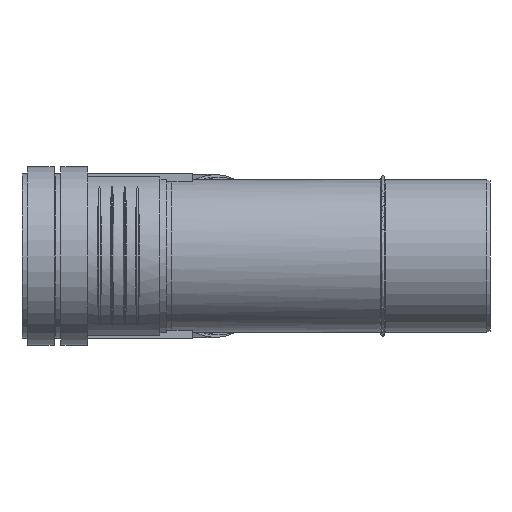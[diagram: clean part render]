
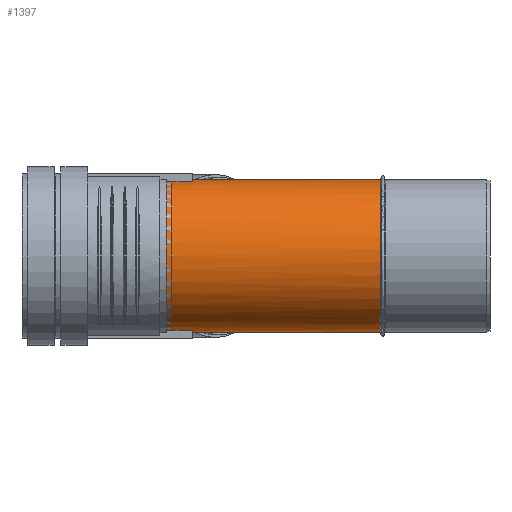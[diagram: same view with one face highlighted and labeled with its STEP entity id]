
A CAD part, left-side view. The second image highlights one B-rep face of the part: STEP entity #1397.
In plain terms, the highlighted cylindrical face has radius 45.1 mm (diameter 90.2 mm), a partial arc.
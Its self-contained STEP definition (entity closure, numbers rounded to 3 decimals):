
#115=ELLIPSE($,#1505,48.816,45.1);
#116=ELLIPSE($,#1506,117.852,45.1);
#117=ELLIPSE($,#1507,117.852,45.1);
#118=ELLIPSE($,#1509,117.852,45.1);
#119=ELLIPSE($,#1510,117.852,45.1);
#120=ELLIPSE($,#1511,48.816,45.1);
#235=CYLINDRICAL_SURFACE($,#1504,45.1);
#333=FACE_OUTER_BOUND($,#419,.T.);
#419=EDGE_LOOP($,(#952,#953,#954,#955,#956,#957,#958,#959));
#556=CIRCLE($,#1500,45.1);
#558=CIRCLE($,#1508,45.1);
#632=VERTEX_POINT($,#2111);
#633=VERTEX_POINT($,#2112);
#635=VERTEX_POINT($,#2133);
#636=VERTEX_POINT($,#2135);
#637=VERTEX_POINT($,#2137);
#638=VERTEX_POINT($,#2139);
#639=VERTEX_POINT($,#2141);
#640=VERTEX_POINT($,#2143);
#769=EDGE_CURVE($,#633,#632,#556,.T.);
#771=EDGE_CURVE($,#632,#635,#115,.T.);
#772=EDGE_CURVE($,#635,#636,#116,.T.);
#773=EDGE_CURVE($,#636,#637,#117,.T.);
#774=EDGE_CURVE($,#637,#638,#558,.T.);
#775=EDGE_CURVE($,#638,#639,#118,.T.);
#776=EDGE_CURVE($,#639,#640,#119,.T.);
#777=EDGE_CURVE($,#640,#633,#120,.T.);
#952=ORIENTED_EDGE($,*,*,#769,.T.);
#953=ORIENTED_EDGE($,*,*,#771,.T.);
#954=ORIENTED_EDGE($,*,*,#772,.T.);
#955=ORIENTED_EDGE($,*,*,#773,.T.);
#956=ORIENTED_EDGE($,*,*,#774,.T.);
#957=ORIENTED_EDGE($,*,*,#775,.T.);
#958=ORIENTED_EDGE($,*,*,#776,.T.);
#959=ORIENTED_EDGE($,*,*,#777,.T.);
#1397=ADVANCED_FACE($,(#333),#235,.T.);
#1500=AXIS2_PLACEMENT_3D($,#2127,#1700,#1701);
#1504=AXIS2_PLACEMENT_3D($,#2132,#1708,#1709);
#1505=AXIS2_PLACEMENT_3D($,#2134,#1710,#1711);
#1506=AXIS2_PLACEMENT_3D($,#2136,#1712,#1713);
#1507=AXIS2_PLACEMENT_3D($,#2138,#1714,#1715);
#1508=AXIS2_PLACEMENT_3D($,#2140,#1716,#1717);
#1509=AXIS2_PLACEMENT_3D($,#2142,#1718,#1719);
#1510=AXIS2_PLACEMENT_3D($,#2144,#1720,#1721);
#1511=AXIS2_PLACEMENT_3D($,#2145,#1722,#1723);
#1700=DIRECTION('center_axis',(0.,1.,0.));
#1701=DIRECTION('ref_axis',(1.,0.,0.));
#1708=DIRECTION('center_axis',(0.,1.,0.));
#1709=DIRECTION('ref_axis',(1.,0.,0.));
#1710=DIRECTION('center_axis',(-0.383,-0.924,0.));
#1711=DIRECTION('ref_axis',(0.924,-0.383,0.));
#1712=DIRECTION('center_axis',(-0.924,0.383,0.));
#1713=DIRECTION('ref_axis',(-0.383,-0.924,0.));
#1714=DIRECTION('center_axis',(-0.924,0.383,0.));
#1715=DIRECTION('ref_axis',(-0.383,-0.924,0.));
#1716=DIRECTION('center_axis',(0.,-1.,0.));
#1717=DIRECTION('ref_axis',(1.,0.,0.));
#1718=DIRECTION('center_axis',(-0.924,0.383,0.));
#1719=DIRECTION('ref_axis',(-0.383,-0.924,0.));
#1720=DIRECTION('center_axis',(-0.924,0.383,0.));
#1721=DIRECTION('ref_axis',(-0.383,-0.924,0.));
#1722=DIRECTION('center_axis',(-0.383,-0.924,0.));
#1723=DIRECTION('ref_axis',(0.924,-0.383,0.));
#2111=CARTESIAN_POINT('',(44.663,64.85,6.263));
#2112=CARTESIAN_POINT('',(44.663,64.85,-6.263));
#2127=CARTESIAN_POINT('Origin',(0.,64.85,0.));
#2132=CARTESIAN_POINT('Origin',(0.,0.,0.));
#2133=CARTESIAN_POINT('',(0.,83.35,45.1));
#2134=CARTESIAN_POINT('Origin',(0.,83.35,0.));
#2135=CARTESIAN_POINT('',(45.025,192.05,2.6));
#2136=CARTESIAN_POINT('Origin',(0.,83.35,0.));
#2137=CARTESIAN_POINT('',(45.066,192.15,1.74));
#2138=CARTESIAN_POINT('Origin',(0.,83.35,0.));
#2139=CARTESIAN_POINT('',(45.066,192.15,-1.74));
#2140=CARTESIAN_POINT('Origin',(0.,192.15,0.));
#2141=CARTESIAN_POINT('',(45.025,192.05,-2.6));
#2142=CARTESIAN_POINT('Origin',(0.,83.35,0.));
#2143=CARTESIAN_POINT('',(0.,83.35,-45.1));
#2144=CARTESIAN_POINT('Origin',(0.,83.35,0.));
#2145=CARTESIAN_POINT('Origin',(0.,83.35,0.));
